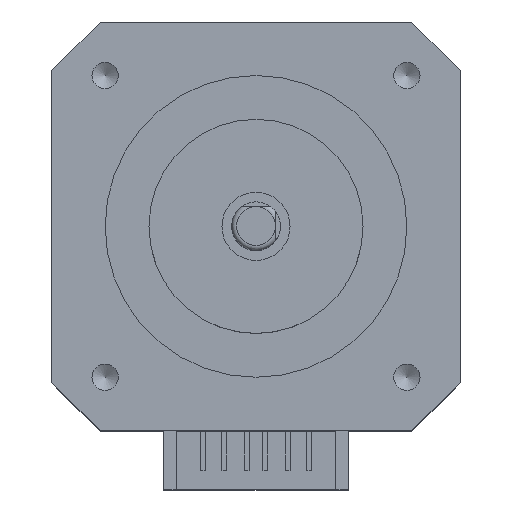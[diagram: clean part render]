
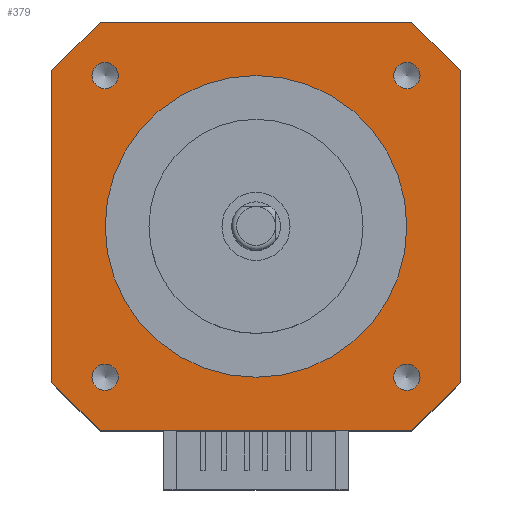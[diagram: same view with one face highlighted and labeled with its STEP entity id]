
A CAD part, top view. The second image highlights one B-rep face of the part: STEP entity #379.
In plain terms, the highlighted planar face has unit normal (0, 0, 1).
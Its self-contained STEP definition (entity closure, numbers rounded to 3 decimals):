
#116=PLANE('',#2877);
#379=ADVANCED_FACE('',(#1199,#1200,#1201,#1202,#1203,#1204),#116,.F.);
#628=LINE('',#4001,#946);
#629=LINE('',#4004,#947);
#630=LINE('',#4006,#948);
#631=LINE('',#4008,#949);
#632=LINE('',#4010,#950);
#633=LINE('',#4012,#951);
#634=LINE('',#4014,#952);
#635=LINE('',#4016,#953);
#946=VECTOR('',#3190,1.);
#947=VECTOR('',#3191,1.);
#948=VECTOR('',#3192,1.);
#949=VECTOR('',#3193,1.);
#950=VECTOR('',#3194,1.);
#951=VECTOR('',#3195,1.);
#952=VECTOR('',#3196,1.);
#953=VECTOR('',#3197,1.);
#1199=FACE_BOUND('',#1290,.T.);
#1200=FACE_BOUND('',#1291,.T.);
#1201=FACE_BOUND('',#1292,.T.);
#1202=FACE_BOUND('',#1293,.T.);
#1203=FACE_BOUND('',#1294,.T.);
#1204=FACE_BOUND('',#1295,.T.);
#1290=EDGE_LOOP('',(#1578));
#1291=EDGE_LOOP('',(#1579));
#1292=EDGE_LOOP('',(#1580));
#1293=EDGE_LOOP('',(#1581));
#1294=EDGE_LOOP('',(#1582,#1583,#1584,#1585,#1586,#1587,#1588,#1589));
#1295=EDGE_LOOP('',(#1590));
#1578=ORIENTED_EDGE('',*,*,#2551,.T.);
#1579=ORIENTED_EDGE('',*,*,#2552,.T.);
#1580=ORIENTED_EDGE('',*,*,#2553,.T.);
#1581=ORIENTED_EDGE('',*,*,#2554,.T.);
#1582=ORIENTED_EDGE('',*,*,#2555,.F.);
#1583=ORIENTED_EDGE('',*,*,#2556,.T.);
#1584=ORIENTED_EDGE('',*,*,#2557,.F.);
#1585=ORIENTED_EDGE('',*,*,#2558,.T.);
#1586=ORIENTED_EDGE('',*,*,#2559,.F.);
#1587=ORIENTED_EDGE('',*,*,#2560,.T.);
#1588=ORIENTED_EDGE('',*,*,#2561,.F.);
#1589=ORIENTED_EDGE('',*,*,#2562,.T.);
#1590=ORIENTED_EDGE('',*,*,#2563,.T.);
#2290=VERTEX_POINT('',#3994);
#2291=VERTEX_POINT('',#3996);
#2292=VERTEX_POINT('',#3998);
#2293=VERTEX_POINT('',#4000);
#2294=VERTEX_POINT('',#4002);
#2295=VERTEX_POINT('',#4003);
#2296=VERTEX_POINT('',#4005);
#2297=VERTEX_POINT('',#4007);
#2298=VERTEX_POINT('',#4009);
#2299=VERTEX_POINT('',#4011);
#2300=VERTEX_POINT('',#4013);
#2301=VERTEX_POINT('',#4015);
#2302=VERTEX_POINT('',#4018);
#2551=EDGE_CURVE('',#2290,#2290,#2822,.T.);
#2552=EDGE_CURVE('',#2291,#2291,#2823,.T.);
#2553=EDGE_CURVE('',#2292,#2292,#2824,.T.);
#2554=EDGE_CURVE('',#2293,#2293,#2825,.T.);
#2555=EDGE_CURVE('',#2294,#2295,#628,.T.);
#2556=EDGE_CURVE('',#2294,#2296,#629,.T.);
#2557=EDGE_CURVE('',#2297,#2296,#630,.T.);
#2558=EDGE_CURVE('',#2297,#2298,#631,.T.);
#2559=EDGE_CURVE('',#2299,#2298,#632,.T.);
#2560=EDGE_CURVE('',#2299,#2300,#633,.T.);
#2561=EDGE_CURVE('',#2301,#2300,#634,.T.);
#2562=EDGE_CURVE('',#2301,#2295,#635,.T.);
#2563=EDGE_CURVE('',#2302,#2302,#2826,.T.);
#2822=CIRCLE('',#2872,1.35);
#2823=CIRCLE('',#2873,1.35);
#2824=CIRCLE('',#2874,1.35);
#2825=CIRCLE('',#2875,1.35);
#2826=CIRCLE('',#2876,15.5);
#2872=AXIS2_PLACEMENT_3D('',#3993,#3182,#3183);
#2873=AXIS2_PLACEMENT_3D('',#3995,#3184,#3185);
#2874=AXIS2_PLACEMENT_3D('',#3997,#3186,#3187);
#2875=AXIS2_PLACEMENT_3D('',#3999,#3188,#3189);
#2876=AXIS2_PLACEMENT_3D('',#4017,#3198,#3199);
#2877=AXIS2_PLACEMENT_3D('',#4019,#3200,#3201);
#3182=DIRECTION('',(0.,0.,-1.));
#3183=DIRECTION('',(-1.,0.,0.));
#3184=DIRECTION('',(0.,0.,-1.));
#3185=DIRECTION('',(-1.,0.,0.));
#3186=DIRECTION('',(0.,0.,-1.));
#3187=DIRECTION('',(-1.,0.,0.));
#3188=DIRECTION('',(0.,0.,-1.));
#3189=DIRECTION('',(-1.,0.,0.));
#3190=DIRECTION('',(1.,0.,0.));
#3191=DIRECTION('',(-0.707,-0.707,0.));
#3192=DIRECTION('',(0.,1.,0.));
#3193=DIRECTION('',(0.707,-0.707,0.));
#3194=DIRECTION('',(-1.,0.,0.));
#3195=DIRECTION('',(0.707,0.707,0.));
#3196=DIRECTION('',(0.,-1.,0.));
#3197=DIRECTION('',(-0.707,0.707,0.));
#3198=DIRECTION('',(0.,0.,-1.));
#3199=DIRECTION('',(1.,0.,0.));
#3200=DIRECTION('',(0.,0.,-1.));
#3201=DIRECTION('',(-1.,0.,0.));
#3993=CARTESIAN_POINT('',(15.5,-15.5,0.));
#3994=CARTESIAN_POINT('',(14.15,-15.5,0.));
#3995=CARTESIAN_POINT('',(15.5,15.5,0.));
#3996=CARTESIAN_POINT('',(14.15,15.5,0.));
#3997=CARTESIAN_POINT('',(-15.5,15.5,0.));
#3998=CARTESIAN_POINT('',(-16.85,15.5,0.));
#3999=CARTESIAN_POINT('',(-15.5,-15.5,0.));
#4000=CARTESIAN_POINT('',(-16.85,-15.5,0.));
#4001=CARTESIAN_POINT('',(-21.,21.,0.));
#4002=CARTESIAN_POINT('',(-16.,21.,0.));
#4003=CARTESIAN_POINT('',(16.,21.,0.));
#4004=CARTESIAN_POINT('',(-16.,21.,0.));
#4005=CARTESIAN_POINT('',(-21.,16.,0.));
#4006=CARTESIAN_POINT('',(-21.,-21.,0.));
#4007=CARTESIAN_POINT('',(-21.,-16.,0.));
#4008=CARTESIAN_POINT('',(-21.,-16.,0.));
#4009=CARTESIAN_POINT('',(-16.,-21.,0.));
#4010=CARTESIAN_POINT('',(21.,-21.,0.));
#4011=CARTESIAN_POINT('',(16.,-21.,0.));
#4012=CARTESIAN_POINT('',(16.,-21.,0.));
#4013=CARTESIAN_POINT('',(21.,-16.,0.));
#4014=CARTESIAN_POINT('',(21.,21.,0.));
#4015=CARTESIAN_POINT('',(21.,16.,0.));
#4016=CARTESIAN_POINT('',(21.,16.,0.));
#4017=CARTESIAN_POINT('',(0.,0.,0.));
#4018=CARTESIAN_POINT('',(15.5,0.,0.));
#4019=CARTESIAN_POINT('',(-21.,-21.,0.));
